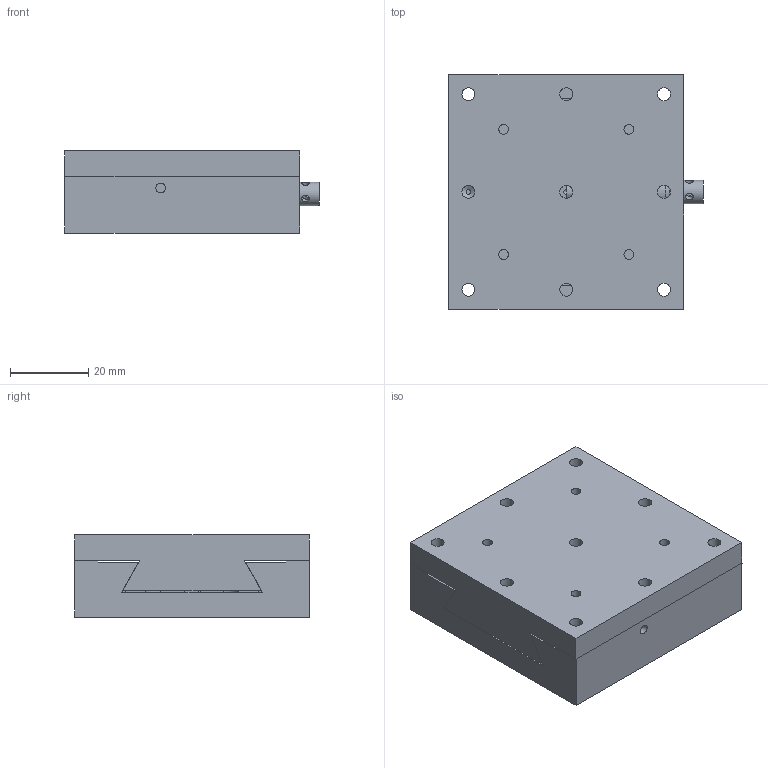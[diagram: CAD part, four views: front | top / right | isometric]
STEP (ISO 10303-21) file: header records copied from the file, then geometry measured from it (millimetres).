
FILE_DESCRIPTION( ( 'STEP AP203' ), '1' );
FILE_NAME( 'C:/Documents and Settings/myamaguc/デスクトップ/確認/3D_BDBXS-60+070424/3D_BDBXS-60+070424.step', '2007-05-07T00:21:29', ( ' ' ), ( ' ' ), 'XStep 1.0', ' ', ' ' );
FILE_SCHEMA( ( 'CONFIG_CONTROL_DESIGN' ) );
Length unit declared in the file: millimetre
Products named in the file (3): 1; 2; 3
Bounding box: 65 x 60 x 21 mm (x, y, z)
Volume: 62559.3 mm3; surface area: 26094.5 mm2
Topology: 3 solids, 3 shells, 136 faces, 389 edges, 260 vertices
Faces by surface type: plane 72, cylinder 60, cone 4
Full cylindrical faces by diameter (mm): 1.9 x4, 2.5 x9, 3.3 x18, 4.2 x4, 5 x3, 6 x1, 8 x7
Entity records: 4312 total; most frequent: CARTESIAN_POINT 853, DIRECTION 698, ORIENTED_EDGE 616, EDGE_CURVE 308, AXIS2_PLACEMENT_3D 262, EDGE_LOOP 229, VERTEX_POINT 229, FACE_OUTER_BOUND 181
